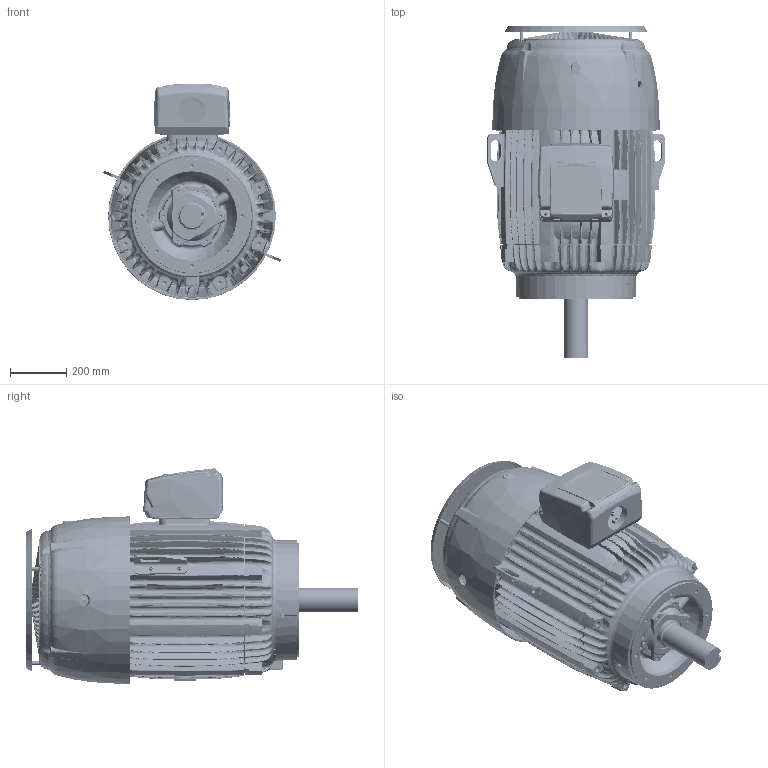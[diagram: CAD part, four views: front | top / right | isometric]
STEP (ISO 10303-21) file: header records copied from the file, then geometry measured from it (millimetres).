
FILE_DESCRIPTION((''),'2;1');
FILE_NAME('447_VNT_ASSY_ASM','2020-01-03T11:30:53',('EMD2341'),('Nidec Motor Corporation'),'CREO PARAMETRIC BY PTC INC, 2019080','CREO PARAMETRIC BY PTC INC, 2019080','');
FILE_SCHEMA(('CONFIG_CONTROL_DESIGN'));
Products named in the file (15): 0104890-006; 0650198; 0650196; 0211718; 0211719; 0882987; 0157258; 0865614; 0865604; 2025052; 0345963; 0364751; 2023911; 2020047; 447_VNT_ASSY_ASM
Assembly tree (17 placements, depth 2):
  447_VNT_ASSY_ASM
    0104890-006
    0650198
    0650196
    0211718
    0211719
    0882987
    0157258
    0865614
    0865604
    2025052
    0345963
    0364751  x3
    2023911
    2020047  x2
Bounding box: 633.41 x 1181.07 x 769.04 mm (x, y, z)
Volume: 54051638.6 mm3; surface area: 7845131.7 mm2
Topology: 19 solids, 90 shells, 9790 faces, 23438 edges, 13713 vertices
Faces by surface type: bspline 5876, cylinder 1100, plane 924, torus 888, cone 532, extrusion 306, sphere 154, revolution 10
Entity records: 540988 total; most frequent: CARTESIAN_POINT 356727, ORIENTED_EDGE 46182, DIRECTION 26790, EDGE_CURVE 23231, VERTEX_POINT 13653, B_SPLINE_CURVE_WITH_KNOTS 12228, AXIS2_PLACEMENT_3D 11553, EDGE_LOOP 10172
